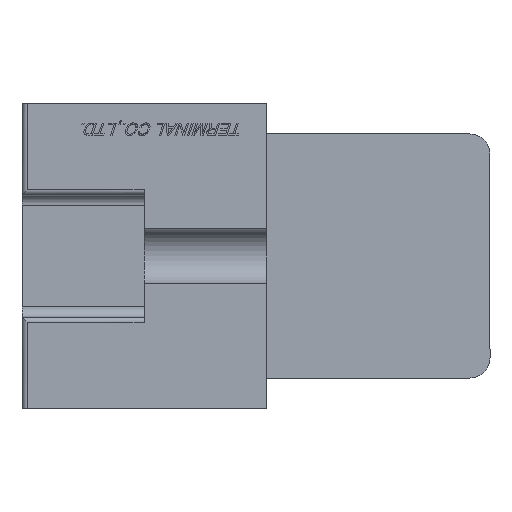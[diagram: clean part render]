
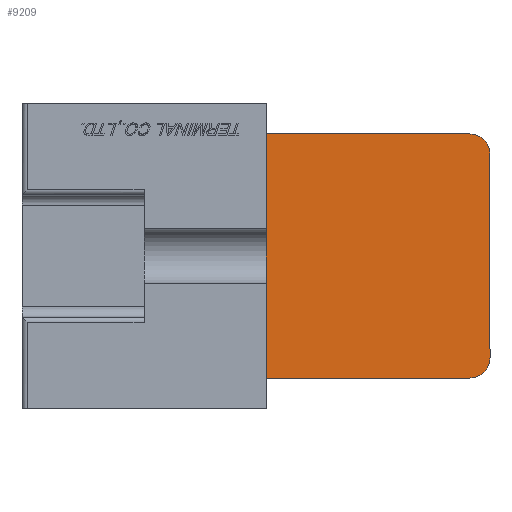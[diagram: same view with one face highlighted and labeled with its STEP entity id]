
A CAD part, left-side view. The second image highlights one B-rep face of the part: STEP entity #9209.
In plain terms, the highlighted planar face has unit normal (-1, 0, 0).
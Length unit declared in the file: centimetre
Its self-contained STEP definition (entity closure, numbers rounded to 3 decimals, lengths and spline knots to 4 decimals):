
#598=CIRCLE('',#16499,0.2);
#600=CIRCLE('',#16503,0.2);
#893=VERTEX_POINT('',#12227);
#894=VERTEX_POINT('',#12229);
#957=VERTEX_POINT('',#12393);
#958=VERTEX_POINT('',#12395);
#1664=VERTEX_POINT('',#15543);
#1672=VERTEX_POINT('',#15629);
#1797=VECTOR('',#9734,1.);
#1863=VECTOR('',#9860,1.);
#1868=VECTOR('',#9868,1.);
#2506=VECTOR('',#11432,1.);
#2604=LINE('',#12228,#1797);
#2670=LINE('',#12394,#1863);
#2675=LINE('',#12406,#1868);
#3313=LINE('',#15628,#2506);
#3458=EDGE_CURVE('',#893,#894,#2604,.T.);
#3541=EDGE_CURVE('',#958,#957,#2670,.T.);
#3548=EDGE_CURVE('',#958,#893,#2675,.T.);
#4588=EDGE_CURVE('',#894,#1664,#598,.T.);
#4599=EDGE_CURVE('',#1672,#1664,#3313,.T.);
#4601=EDGE_CURVE('',#1672,#957,#600,.T.);
#7294=ORIENTED_EDGE('',*,*,#4588,.F.);
#7295=ORIENTED_EDGE('',*,*,#3458,.F.);
#7296=ORIENTED_EDGE('',*,*,#3548,.F.);
#7297=ORIENTED_EDGE('',*,*,#3541,.T.);
#7298=ORIENTED_EDGE('',*,*,#4601,.F.);
#7299=ORIENTED_EDGE('',*,*,#4599,.T.);
#7966=EDGE_LOOP('',(#7294,#7295,#7296,#7297,#7298,#7299));
#8633=FACE_BOUND('',#7966,.T.);
#9209=ADVANCED_FACE('',(#8633),#9546,.T.);
#9546=PLANE('',#16554);
#9734=DIRECTION('',(0.,0.,-1.));
#9860=DIRECTION('',(0.,0.,-1.));
#9868=DIRECTION('',(0.,-1.,0.));
#11421=DIRECTION('',(1.,0.,0.));
#11422=DIRECTION('',(0.,-0.141,-0.141));
#11432=DIRECTION('',(0.,-1.,0.));
#11436=DIRECTION('',(1.,0.,0.));
#11437=DIRECTION('',(0.,0.141,-0.141));
#11544=DIRECTION('',(-1.,0.,0.));
#12227=CARTESIAN_POINT('',(1.3,-1.2,0.));
#12228=CARTESIAN_POINT('',(1.3,-1.2,0.));
#12229=CARTESIAN_POINT('',(1.3,-1.2,-2.));
#12393=CARTESIAN_POINT('',(1.3,1.2,-2.));
#12394=CARTESIAN_POINT('',(1.3,1.2,0.));
#12395=CARTESIAN_POINT('',(1.3,1.2,0.));
#12406=CARTESIAN_POINT('',(1.3,0.,0.));
#15542=CARTESIAN_POINT('',(1.3,-1.,-2.));
#15543=CARTESIAN_POINT('',(1.3,-1.,-2.2));
#15628=CARTESIAN_POINT('',(1.3,1.2,-2.2));
#15629=CARTESIAN_POINT('',(1.3,1.,-2.2));
#15632=CARTESIAN_POINT('',(1.3,1.,-2.));
#15725=CARTESIAN_POINT('',(1.3,0.,0.));
#16499=AXIS2_PLACEMENT_3D('',#15542,#11421,#11422);
#16503=AXIS2_PLACEMENT_3D('',#15632,#11436,#11437);
#16554=AXIS2_PLACEMENT_3D('',#15725,#11544,$);
